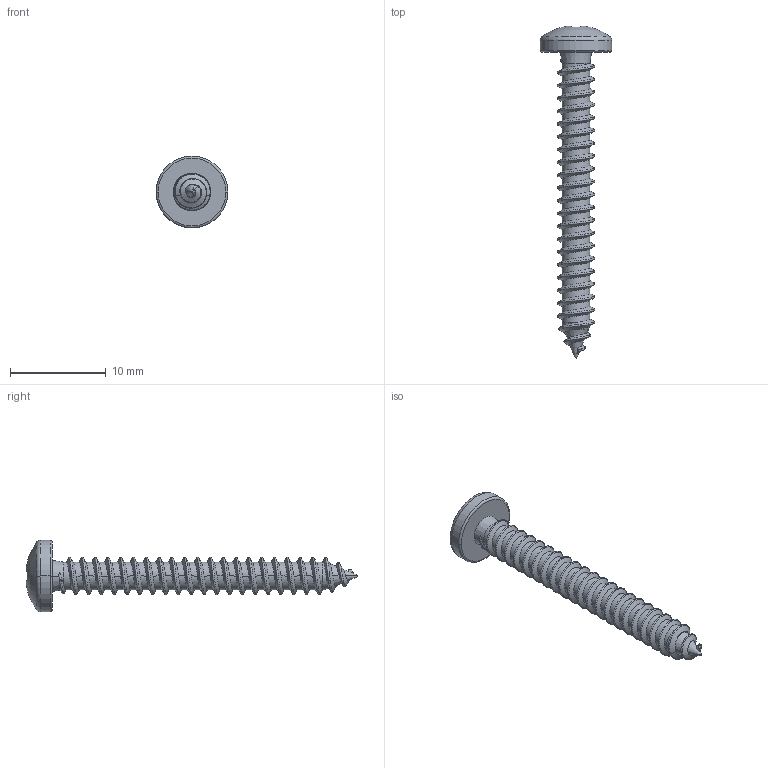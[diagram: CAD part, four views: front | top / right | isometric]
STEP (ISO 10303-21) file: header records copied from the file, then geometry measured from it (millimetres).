
FILE_DESCRIPTION((''),'2;1');
FILE_NAME('60203410_PRT','2020-09-16T17:38:05',('Luca.Carnelos'),(''),'CREO PARAMETRIC BY PTC INC, 2020154','CREO PARAMETRIC BY PTC INC, 2020154','');
FILE_SCHEMA(('CONFIG_CONTROL_DESIGN'));
Length unit declared in the file: millimetre
Products named in the file (1): 60203410_PRT
Bounding box: 7.5 x 34.73 x 7.5 mm (x, y, z)
Volume: 332.1 mm3; surface area: 573.1 mm2
Topology: 1 solids, 1 shells, 112 faces, 294 edges, 183 vertices
Faces by surface type: cylinder 44, bspline 36, plane 11, cone 10, torus 4, sphere 4, extrusion 3
Entity records: 10960 total; most frequent: CARTESIAN_POINT 8580, ORIENTED_EDGE 584, DIRECTION 327, EDGE_CURVE 292, VERTEX_POINT 183, B_SPLINE_CURVE_WITH_KNOTS 166, AXIS2_PLACEMENT_3D 122, EDGE_LOOP 113
